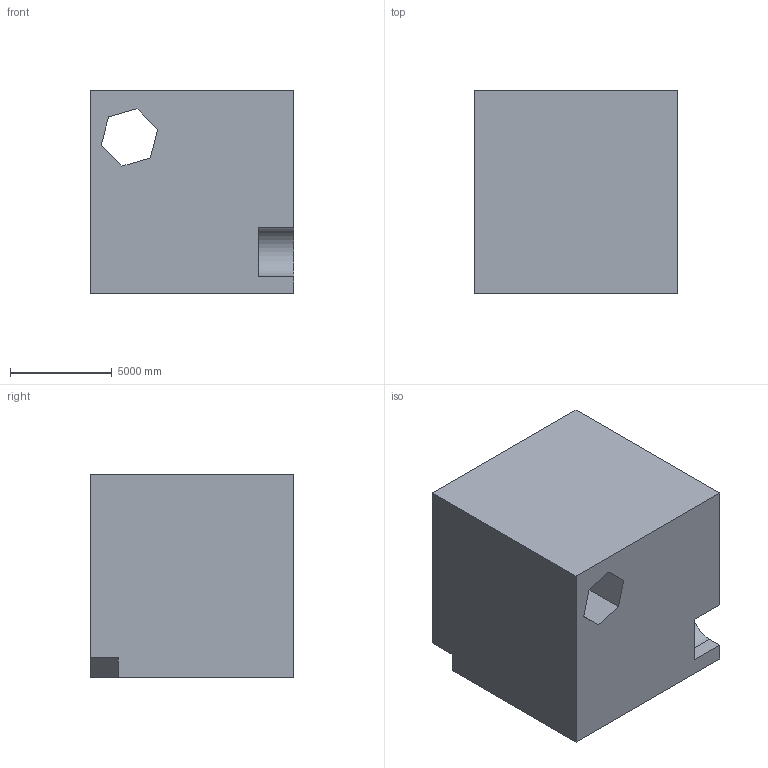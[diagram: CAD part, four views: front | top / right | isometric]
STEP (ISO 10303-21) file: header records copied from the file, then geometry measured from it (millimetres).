
FILE_DESCRIPTION (( 'STEP AP203' ), '1' );
FILE_NAME ('154.STEP', '2022-09-06T12:35:44', ( 'user' ), ( '' ), 'SwSTEP 2.0', 'SolidWorks 2021', '' );
FILE_SCHEMA (( 'CONFIG_CONTROL_DESIGN' ));
Length unit declared in the file: centimetre
Products named in the file (1): 154
Bounding box: 10000 x 10000 x 10000 mm (x, y, z)
Volume: 921339853333.8 mm3; surface area: 713836286.1 mm2
Topology: 1 solids, 1 shells, 30 faces, 78 edges, 52 vertices
Faces by surface type: plane 26, cylinder 4
Entity records: 993 total; most frequent: CARTESIAN_POINT 161, ORIENTED_EDGE 156, DIRECTION 150, EDGE_CURVE 78, LINE 68, VECTOR 68, VERTEX_POINT 52, AXIS2_PLACEMENT_3D 41
